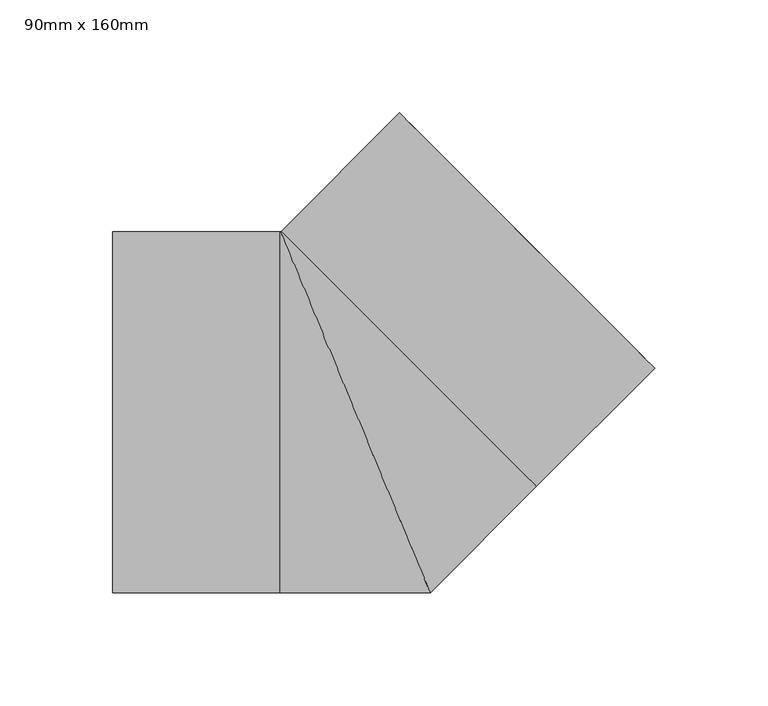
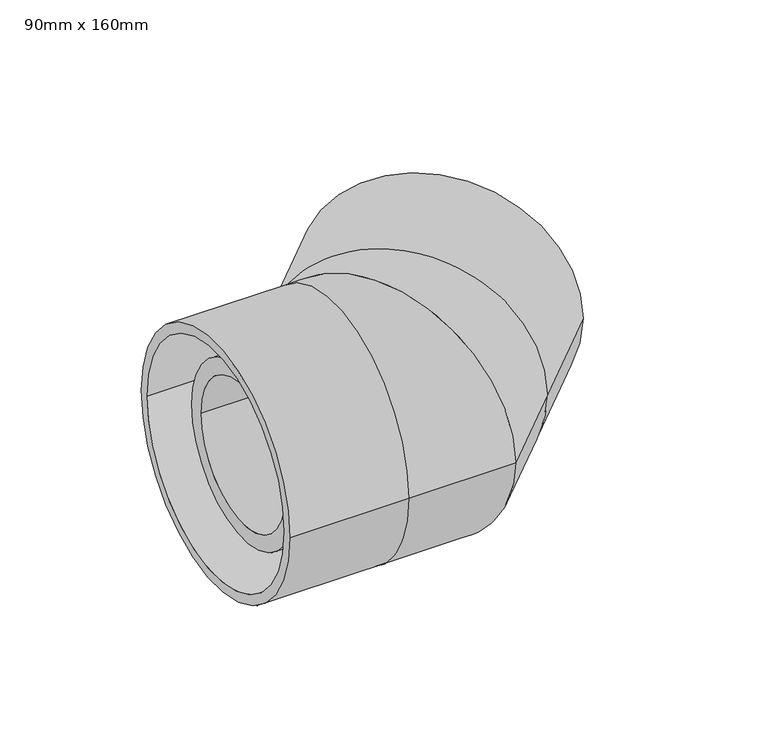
"""IFC4 building model written with IfcOpenShell, lengths in millimetres: pipe fitting geometry, Durapipe_PipeFittings_PLX_CloseFit_45Elbow : 90mm x 160mm."""

from ifc_helpers import new_model, si_unit, point, frame, origin, place, context, project, spatial, polyline, circle_curve, ellipse_curve, trimmed, source, transform, mapped, element, save
from ifc_brep_helpers import plane_surface, cylinder_surface, revolved_surface, advanced_brep


def pipe_fitting_90mm_x_160mm_308f8551(model_context):
    return source(origin(), model_context, "Body", "AdvancedBrep", [
        advanced_brep(
        [(-107.6, -80.0, 0.0), (-107.6, 80.0, 0.0), (-107.6, -73.75, 0.0), (-107.6, 73.75, 0.0), (-33.5512986, -80.0, 0.0), (-33.5512986, 80.0, 0.0), (-33.5512986, -73.75, 0.0), (-33.5512986, 73.75, 0.0), (132.6532322, 19.5161472, 0.0), (19.5161472, 132.6532322, 0.0), (128.2338148, 23.9355645, 0.0), (23.9355645, 128.2338148, 0.0), (-32.8441918, 80.2928932, 0.0), (80.2928932, -32.8441918, 0.0), (-28.4247744, 75.8734758, 0.0), (75.8734758, -28.4247744, 0.0), (33.137085, -80.0, 0.0), (-33.137085, 80.0, 0.0), (30.5482502, -73.75, 0.0), (-30.5482502, 73.75, 0.0)],
        [
            (0, 1, circle_curve(frame((-107.6, 0.0, 0.0), z_axis=(-1.0, 0.0, 0.0), x_axis=(0.0, 1.0, 0.0)), 80.0)),
            (1, 0, circle_curve(frame((-107.6, 0.0, 0.0), z_axis=(-1.0, 0.0, 0.0), x_axis=(0.0, 1.0, 0.0)), 80.0)),
            (2, 3, circle_curve(frame((-107.6, 0.0, 0.0), z_axis=(1.0, 0.0, 0.0), x_axis=(0.0, 1.0, 0.0)), 73.75)),
            (3, 2, circle_curve(frame((-107.6, 0.0, 0.0), z_axis=(1.0, 0.0, 0.0), x_axis=(0.0, 1.0, 0.0)), 73.75)),
            (0, 4),
            (4, 5, circle_curve(frame((-33.5512986, 0.0, 0.0), z_axis=(-1.0, 0.0, 0.0), x_axis=(0.0, 1.0, 0.0)), 80.0)),
            (5, 1),
            (5, 4, circle_curve(frame((-33.5512986, 0.0, 0.0), z_axis=(-1.0, 0.0, 0.0), x_axis=(0.0, 1.0, 0.0)), 80.0)),
            (2, 6),
            (6, 7, circle_curve(frame((-33.5512986, 0.0, 0.0), z_axis=(1.0, 0.0, 0.0), x_axis=(0.0, 1.0, 0.0)), 73.75)),
            (7, 3),
            (7, 6, circle_curve(frame((-33.5512986, 0.0, 0.0), z_axis=(1.0, 0.0, 0.0), x_axis=(0.0, 1.0, 0.0)), 73.75)),
            (8, 9, circle_curve(frame((76.0846897, 76.0846897, 0.0), z_axis=(0.7071067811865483, 0.7071067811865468, 0.0), x_axis=(-0.7071067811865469, 0.7071067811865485, 0.0)), 80.0)),
            (9, 8, circle_curve(frame((76.0846897, 76.0846897, 0.0), z_axis=(0.7071067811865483, 0.7071067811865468, 0.0), x_axis=(-0.7071067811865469, 0.7071067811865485, 0.0)), 80.0)),
            (10, 11, circle_curve(frame((76.0846897, 76.0846897, 0.0), z_axis=(-0.7071067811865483, -0.7071067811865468, 0.0), x_axis=(-0.7071067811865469, 0.7071067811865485, 0.0)), 73.75)),
            (11, 10, circle_curve(frame((76.0846897, 76.0846897, 0.0), z_axis=(-0.7071067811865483, -0.7071067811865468, 0.0), x_axis=(-0.7071067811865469, 0.7071067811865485, 0.0)), 73.75)),
            (12, 13, circle_curve(frame((23.7243507, 23.7243507, 0.0), z_axis=(0.7071067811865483, 0.7071067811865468, 0.0), x_axis=(-0.7071067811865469, 0.7071067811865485, 0.0)), 80.0)),
            (13, 8),
            (9, 12),
            (13, 12, circle_curve(frame((23.7243507, 23.7243507, 0.0), z_axis=(0.7071067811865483, 0.7071067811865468, 0.0), x_axis=(-0.7071067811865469, 0.7071067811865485, 0.0)), 80.0)),
            (14, 15, circle_curve(frame((23.7243507, 23.7243507, 0.0), z_axis=(-0.7071067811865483, -0.7071067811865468, 0.0), x_axis=(-0.7071067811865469, 0.7071067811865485, 0.0)), 73.75)),
            (15, 10),
            (11, 14),
            (15, 14, circle_curve(frame((23.7243507, 23.7243507, 0.0), z_axis=(-0.7071067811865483, -0.7071067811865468, 0.0), x_axis=(-0.7071067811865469, 0.7071067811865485, 0.0)), 73.75)),
            (4, 16),
            (16, 17, ellipse_curve(frame((0.0, 0.0, 0.0), z_axis=(-0.9238795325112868, -0.3826834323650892, 0.0), x_axis=(-0.3826834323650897, 0.9238795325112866, 0.0)), 86.591376, 80.0)),
            (17, 5),
            (17, 16, ellipse_curve(frame((0.0, 0.0, 0.0), z_axis=(-0.9238795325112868, -0.3826834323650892, 0.0), x_axis=(-0.3826834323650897, 0.9238795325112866, 0.0)), 86.591376, 80.0)),
            (6, 18),
            (18, 19, ellipse_curve(frame((0.0, 0.0, 0.0), z_axis=(0.9238795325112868, 0.3826834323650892, 0.0), x_axis=(0.3826834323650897, -0.9238795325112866, 0.0)), 79.8264248, 73.75)),
            (19, 7),
            (19, 18, ellipse_curve(frame((0.0, 0.0, 0.0), z_axis=(0.9238795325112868, 0.3826834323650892, 0.0), x_axis=(0.3826834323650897, -0.9238795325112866, 0.0)), 79.8264248, 73.75)),
            (16, 13),
            (12, 17),
            (18, 15),
            (14, 19),
        ],
        [
            plane_surface(frame((-107.6, 0.0, 0.0), z_axis=(-1.0, 0.0, 0.0), x_axis=(0.0, 0.0, 1.0))),
            cylinder_surface(frame((-107.6, 0.0, 0.0), z_axis=(-1.0, 0.0, 0.0), x_axis=(0.0, 1.0, 0.0)), 80.0),
            revolved_surface(polyline([(-33.551298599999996, 73.75, 0.0), (-107.6, 73.75, 0.0)]), (-107.6, 0.0, 0.0), (1.0, 0.0, 0.0)),
            plane_surface(frame((76.0846897, 76.0846897, 0.0), z_axis=(0.7071067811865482, 0.7071067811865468, 0.0), x_axis=(0.0, 0.0, 1.0))),
            cylinder_surface(frame((23.7243507, 23.7243507, 0.0), z_axis=(-0.7071067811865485, -0.7071067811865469, 0.0), x_axis=(-0.7071067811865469, 0.7071067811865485, 0.0)), 80.0),
            revolved_surface(polyline([(23.93556458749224, 128.23381481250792, 0.0), (-28.424774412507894, 75.87347581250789, 0.0)]), (23.7243507, 23.7243507, 0.0), (0.7071067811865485, 0.7071067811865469, 0.0)),
            cylinder_surface(frame((-33.5512986, 0.0, 0.0), z_axis=(-1.0, 0.0, 0.0), x_axis=(0.0, 1.0, 0.0)), 80.0),
            revolved_surface(polyline([(30.54825023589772, 73.75, 0.0), (-33.5512986, 73.75, 0.0)]), (-33.5512986, 0.0, 0.0), (1.0, 0.0, 0.0)),
            cylinder_surface(frame((0.0, 0.0, 0.0), z_axis=(-0.7071067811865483, -0.7071067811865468, 0.0), x_axis=(-0.7071067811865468, 0.7071067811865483, 0.0)), 80.0),
            revolved_surface(polyline([(-28.424774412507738, 75.87347581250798, 0.0), (-73.7500000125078, 30.548250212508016, 0.0)]), (0.0, 0.0, 0.0), (0.7071067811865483, 0.7071067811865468, 0.0)),
        ],
        [
            (0, [[1, 2], [3, 4]]),
            (1, [[-1, 5, 6, 7]]),
            (1, [[-2, -7, 8, -5]]),
            (2, [[-3, 9, 10, 11]]),
            (2, [[-4, -11, 12, -9]]),
            (3, [[13, 14], [15, 16]]),
            (4, [[17, 18, -14, 19]]),
            (4, [[20, -19, -13, -18]]),
            (5, [[21, 22, -16, 23]]),
            (5, [[24, -23, -15, -22]]),
            (6, [[-6, 25, 26, 27]]),
            (6, [[-8, -27, 28, -25]]),
            (7, [[-10, 29, 30, 31]]),
            (7, [[-12, -31, 32, -29]]),
            (8, [[-26, 33, -17, 34]]),
            (8, [[-28, -34, -20, -33]]),
            (9, [[-30, 35, -21, 36]]),
            (9, [[-32, -36, -24, -35]]),
        ],
    ),
        advanced_brep(
        [(-23.2995129, 55.25, 0.0), (-23.2995129, -55.25, 0.0), (55.5428932, -22.5924061, 0.0), (-22.5924061, 55.5428932, 0.0), (-90.5, -55.25, 0.0), (-90.5, 55.25, 0.0), (-90.5, -45.25, 0.0), (-90.5, 45.25, 0.0), (24.925514, 103.0608134, 0.0), (103.0608134, 24.925514, 0.0), (63.9931637, 63.9931637, 45.25), (63.9931637, 63.9931637, -45.25), (-21.5, 45.25, 0.0), (-21.5, -45.25, 0.0), (15.2027958, 15.2027958, -45.25), (15.2027958, 15.2027958, 45.25)],
        [
            (0, 1, circle_curve(frame((-23.2995129, 0.0, 0.0), z_axis=(1.0, 0.0, 0.0), x_axis=(0.0, 1.0, 0.0)), 55.25)),
            (1, 2, circle_curve(frame((-23.2995129, 56.25, 0.0), z_axis=(0.0, 0.0, 1.0), x_axis=(0.0, -1.0, 0.0)), 111.5)),
            (2, 3, circle_curve(frame((16.4752436, 16.4752436, 0.0), z_axis=(-0.7071067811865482, -0.7071067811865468, 0.0), x_axis=(-0.7071067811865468, 0.7071067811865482, 0.0)), 55.25)),
            (3, 0, circle_curve(frame((-23.2995129, 56.25, 0.0), z_axis=(0.0, 0.0, -1.0), x_axis=(0.0, -1.0, 0.0)), 1.0)),
            (1, 0, circle_curve(frame((-23.2995129, 0.0, 0.0), z_axis=(1.0, 0.0, 0.0), x_axis=(0.0, 1.0, 0.0)), 55.25)),
            (3, 2, circle_curve(frame((16.4752436, 16.4752436, 0.0), z_axis=(-0.70710678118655, -0.707106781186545, 0.0), x_axis=(-0.707106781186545, 0.70710678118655, 0.0)), 55.25)),
            (4, 5, circle_curve(frame((-90.5, 0.0, 0.0), z_axis=(-1.0, 0.0, 0.0), x_axis=(0.0, 1.0, 0.0)), 55.25)),
            (5, 4, circle_curve(frame((-90.5, 0.0, 0.0), z_axis=(-1.0, 0.0, 0.0), x_axis=(0.0, 1.0, 0.0)), 55.25)),
            (6, 7, circle_curve(frame((-90.5, 0.0, 0.0), z_axis=(1.0, 0.0, 0.0), x_axis=(0.0, -1.0, 0.0)), 45.25)),
            (7, 6, circle_curve(frame((-90.5, 0.0, 0.0), z_axis=(1.0, 0.0, 0.0), x_axis=(0.0, -1.0, 0.0)), 45.25)),
            (8, 9, circle_curve(frame((63.9931637, 63.9931637, 0.0), z_axis=(0.7071067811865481, 0.707106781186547, 0.0), x_axis=(-0.707106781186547, 0.7071067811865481, 0.0)), 55.25)),
            (9, 8, circle_curve(frame((63.9931637, 63.9931637, 0.0), z_axis=(0.7071067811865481, 0.707106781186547, 0.0), x_axis=(-0.707106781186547, 0.7071067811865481, 0.0)), 55.25)),
            (10, 11, circle_curve(frame((63.9931637, 63.9931637, 0.0), z_axis=(-0.7071067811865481, -0.707106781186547, 0.0), x_axis=(0.0, 0.0, 1.0)), 45.25)),
            (11, 10, circle_curve(frame((63.9931637, 63.9931637, 0.0), z_axis=(-0.7071067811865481, -0.707106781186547, 0.0), x_axis=(0.0, 0.0, 1.0)), 45.25)),
            (0, 5),
            (4, 1),
            (2, 9),
            (8, 3),
            (12, 13, circle_curve(frame((-21.5, 0.0, 0.0), z_axis=(-1.0, 0.0, 0.0), x_axis=(0.0, -1.0, 0.0)), 45.25)),
            (13, 12, circle_curve(frame((-21.5, 0.0, 0.0), z_axis=(-1.0, 0.0, 0.0), x_axis=(0.0, -1.0, 0.0)), 45.25)),
            (12, 7),
            (6, 13),
            (14, 15, circle_curve(frame((15.2027958, 15.2027958, 0.0), z_axis=(0.7071067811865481, 0.707106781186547, 0.0), x_axis=(0.0, 0.0, 1.0)), 45.25)),
            (15, 14, circle_curve(frame((15.2027958, 15.2027958, 0.0), z_axis=(0.7071067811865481, 0.707106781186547, 0.0), x_axis=(0.0, 0.0, 1.0)), 45.25)),
            (14, 11),
            (10, 15),
        ],
        [
            revolved_surface(trimmed(ellipse_curve(frame((-23.2995129, 0.0, 0.0), z_axis=(-1.0, 0.0, 0.0), x_axis=(0.0, 1.0, 0.0)), 55.25, 55.25), [point((-23.2995129, -55.25, 0.0))], [point((-23.2995129, 55.25, 0.0))], True, "CARTESIAN"), (-23.2995129, 56.25, 0.0), (0.0, 0.0, 1.0)),
            revolved_surface(trimmed(ellipse_curve(frame((-23.2995129, 0.0, 0.0), z_axis=(-1.0, 0.0, 0.0), x_axis=(0.0, 1.0, 0.0)), 55.25, 55.25), [point((-23.2995129, 55.25, 0.0))], [point((-23.2995129, -55.25, 0.0))], True, "CARTESIAN"), (-23.2995129, 56.25, 0.0), (0.0, 0.0, 1.0)),
            plane_surface(frame((-90.5, 0.0, 0.0), z_axis=(-1.0, 0.0, 0.0), x_axis=(0.0, 0.0, 1.0))),
            plane_surface(frame((63.9931637, 63.9931637, 0.0), z_axis=(0.7071067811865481, 0.707106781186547, 0.0), x_axis=(0.0, 0.0, 1.0))),
            cylinder_surface(frame((-90.5, 0.0, 0.0), z_axis=(-1.0, 0.0, 0.0), x_axis=(0.0, 1.0, 0.0)), 55.25),
            cylinder_surface(frame((16.4752436, 16.4752436, 0.0), z_axis=(-0.7071067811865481, -0.707106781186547, 0.0), x_axis=(-0.707106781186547, 0.7071067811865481, 0.0)), 55.25),
            plane_surface(frame((-21.5, -45.25, 0.0), z_axis=(-1.0, 0.0, 0.0), x_axis=(0.0, 0.0, -1.0))),
            revolved_surface(polyline([(-90.5, -45.25, 0.0), (-21.5, -45.25, 0.0)]), (-21.5, 0.0, 0.0), (-1.0, 0.0, 0.0)),
            plane_surface(frame((15.2027958, 15.2027958, 45.25), z_axis=(0.7071067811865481, 0.707106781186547, 0.0), x_axis=(-0.707106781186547, 0.7071067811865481, 0.0))),
            revolved_surface(polyline([(63.99316370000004, 63.99316369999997, 45.25), (15.2027958, 15.2027958, 45.25)]), (15.2027958, 15.2027958, 0.0), (0.7071067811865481, 0.707106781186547, 0.0)),
        ],
        [
            (0, [[1, 2, 3, 4]]),
            (1, [[5, -4, 6, -2]]),
            (2, [[7, 8], [9, 10]]),
            (3, [[11, 12], [13, 14]]),
            (4, [[-1, 15, -7, 16]]),
            (4, [[-5, -16, -8, -15]]),
            (5, [[-3, 17, -11, 18]]),
            (5, [[-6, -18, -12, -17]]),
            (6, [[19, 20]]),
            (7, [[-19, 21, -9, 22]]),
            (7, [[-20, -22, -10, -21]]),
            (8, [[23, 24]]),
            (9, [[-23, 25, -13, 26]]),
            (9, [[-24, -26, -14, -25]]),
        ],
    ),
    ])


if __name__ == "__main__":
    model = new_model("IFC4")
    model_context = context("Model", 3, world=origin())
    ifc_project = project(units=[si_unit("LENGTHUNIT", "METRE", prefix="MILLI")], contexts=[model_context])
    site = spatial("IfcSite", under=ifc_project)
    building = spatial("IfcBuilding", under=site)
    placement = place(None, origin())
    pipe_fitting_90mm_x_160mm_shape = pipe_fitting_90mm_x_160mm_308f8551(model_context)
    element("IfcPipeFitting", 1, ObjectType="Durapipe_PipeFittings_PLX_CloseFit_45Elbow : 90mm x 160mm", at=placement, inside=building, context=model_context, shape_type="MappedRepresentation", body=[
        mapped(pipe_fitting_90mm_x_160mm_shape, transform((0.0, 0.0, 0.0), x_axis=(1.0, 0.0, 0.0), y_axis=(0.0, 1.0, 0.0), z_axis=(0.0, 0.0, 1.0))),
    ])
    save(model, "model.ifc")
